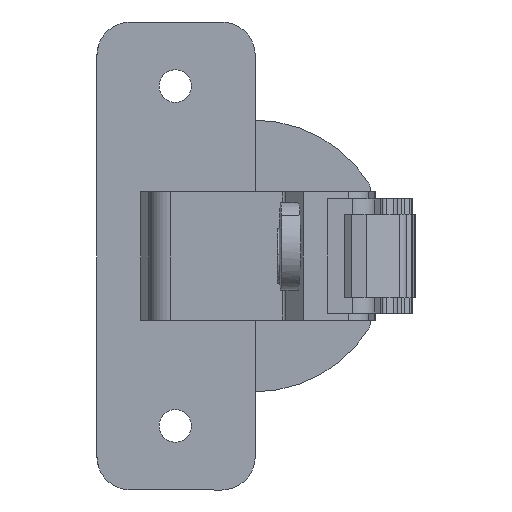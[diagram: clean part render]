
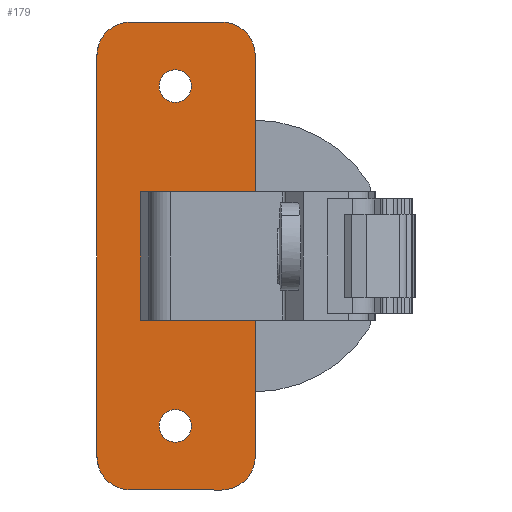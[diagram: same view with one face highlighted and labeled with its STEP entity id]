
A CAD part, left-side view. The second image highlights one B-rep face of the part: STEP entity #179.
In plain terms, the highlighted planar face has unit normal (-1, -0.001, 0).
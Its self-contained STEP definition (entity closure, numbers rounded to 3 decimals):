
#22 = CARTESIAN_POINT ( 'NONE',  ( 17.047, 27.42, 20.35 ) ) ;
#23 = DIRECTION ( 'NONE',  ( -1., -0.001, 0. ) ) ;
#36 = EDGE_CURVE ( 'NONE', #3483, #2443, #468, .T. ) ;
#117 = ORIENTED_EDGE ( 'NONE', *, *, #1464, .F. ) ;
#140 = EDGE_LOOP ( 'NONE', ( #2367, #3119 ) ) ;
#141 = AXIS2_PLACEMENT_3D ( 'NONE', #3350, #2025, #4020 ) ;
#161 = AXIS2_PLACEMENT_3D ( 'NONE', #1014, #3171, #3778 ) ;
#179 = ADVANCED_FACE ( 'NONE', ( #997, #2652, #1316, #961 ), #706, .T. ) ;
#184 = VERTEX_POINT ( 'NONE', #3236 ) ;
#198 = DIRECTION ( 'NONE',  ( -1., -0.001, 0. ) ) ;
#221 = LINE ( 'NONE', #4056, #2663 ) ;
#230 = VERTEX_POINT ( 'NONE', #4201 ) ;
#283 = AXIS2_PLACEMENT_3D ( 'NONE', #4169, #23, #2856 ) ;
#349 = DIRECTION ( 'NONE',  ( -1., -0.001, 0. ) ) ;
#406 = DIRECTION ( 'NONE',  ( -0.001, 1., 0. ) ) ;
#443 = DIRECTION ( 'NONE',  ( -0.001, 1., 0. ) ) ;
#468 = CIRCLE ( 'NONE', #2424, 2.15 ) ;
#496 = EDGE_CURVE ( 'NONE', #2433, #2495, #2225, .T. ) ;
#509 = EDGE_LOOP ( 'NONE', ( #117, #2126 ) ) ;
#581 = CARTESIAN_POINT ( 'NONE',  ( 17.056, 16.838, 26.536 ) ) ;
#643 = EDGE_CURVE ( 'NONE', #862, #1780, #1596, .T. ) ;
#699 = VECTOR ( 'NONE', #1857, 1000. ) ;
#706 = PLANE ( 'NONE',  #4187 ) ;
#719 = DIRECTION ( 'NONE',  ( 0.001, -1., 0. ) ) ;
#760 = LINE ( 'NONE', #1098, #905 ) ;
#789 = VERTEX_POINT ( 'NONE', #1442 ) ;
#834 = DIRECTION ( 'NONE',  ( 0., 0., -1. ) ) ;
#856 = ORIENTED_EDGE ( 'NONE', *, *, #3524, .T. ) ;
#862 = VERTEX_POINT ( 'NONE', #2803 ) ;
#905 = VECTOR ( 'NONE', #719, 1000. ) ;
#950 = EDGE_LOOP ( 'NONE', ( #3022, #1991, #1467, #2616, #1309, #1288, #1952, #856 ) ) ;
#961 = FACE_OUTER_BOUND ( 'NONE', #950, .T. ) ;
#997 = FACE_BOUND ( 'NONE', #3055, .T. ) ;
#1014 = CARTESIAN_POINT ( 'NONE',  ( 17.047, 27.42, -22.5 ) ) ;
#1098 = CARTESIAN_POINT ( 'NONE',  ( 17.052, 21.284, -30.982 ) ) ;
#1210 = EDGE_CURVE ( 'NONE', #1657, #2882, #3092, .T. ) ;
#1288 = ORIENTED_EDGE ( 'NONE', *, *, #4119, .T. ) ;
#1309 = ORIENTED_EDGE ( 'NONE', *, *, #1675, .T. ) ;
#1316 = FACE_BOUND ( 'NONE', #140, .T. ) ;
#1348 = CARTESIAN_POINT ( 'NONE',  ( 17.052, 21.284, 8.5 ) ) ;
#1351 = DIRECTION ( 'NONE',  ( 0., 0., 1. ) ) ;
#1413 = AXIS2_PLACEMENT_3D ( 'NONE', #1546, #2846, #2141 ) ;
#1430 = LINE ( 'NONE', #2364, #1984 ) ;
#1433 = VECTOR ( 'NONE', #406, 1000. ) ;
#1442 = CARTESIAN_POINT ( 'NONE',  ( 17.047, 27.42, -24.65 ) ) ;
#1464 = EDGE_CURVE ( 'NONE', #2443, #3483, #4199, .T. ) ;
#1467 = ORIENTED_EDGE ( 'NONE', *, *, #2087, .T. ) ;
#1468 = CARTESIAN_POINT ( 'NONE',  ( 17.056, 17.104, -13.5 ) ) ;
#1546 = CARTESIAN_POINT ( 'NONE',  ( 17.041, 33.356, -26.536 ) ) ;
#1596 = LINE ( 'NONE', #2887, #2908 ) ;
#1614 = DIRECTION ( 'NONE',  ( 0., 0., 1. ) ) ;
#1633 = CIRCLE ( 'NONE', #141, 2.15 ) ;
#1657 = VERTEX_POINT ( 'NONE', #2969 ) ;
#1675 = EDGE_CURVE ( 'NONE', #2340, #1796, #3664, .T. ) ;
#1705 = CARTESIAN_POINT ( 'NONE',  ( 17.056, 16.838, 26.536 ) ) ;
#1780 = VERTEX_POINT ( 'NONE', #3647 ) ;
#1796 = VERTEX_POINT ( 'NONE', #3250 ) ;
#1807 = CARTESIAN_POINT ( 'NONE',  ( 17.052, 21.284, -30.982 ) ) ;
#1857 = DIRECTION ( 'NONE',  ( 0.001, -1., 0. ) ) ;
#1880 = ORIENTED_EDGE ( 'NONE', *, *, #2540, .F. ) ;
#1881 = EDGE_CURVE ( 'NONE', #4153, #2477, #3801, .T. ) ;
#1940 = CARTESIAN_POINT ( 'NONE',  ( 17.052, 21.284, -8.5 ) ) ;
#1949 = CARTESIAN_POINT ( 'NONE',  ( 17.041, 33.356, -30.982 ) ) ;
#1952 = ORIENTED_EDGE ( 'NONE', *, *, #1881, .T. ) ;
#1984 = VECTOR ( 'NONE', #443, 1000. ) ;
#1991 = ORIENTED_EDGE ( 'NONE', *, *, #3831, .T. ) ;
#1996 = EDGE_CURVE ( 'NONE', #789, #184, #1633, .T. ) ;
#2018 = EDGE_CURVE ( 'NONE', #230, #2340, #3324, .T. ) ;
#2025 = DIRECTION ( 'NONE',  ( -1., -0.001, 0. ) ) ;
#2074 = VERTEX_POINT ( 'NONE', #1807 ) ;
#2087 = EDGE_CURVE ( 'NONE', #2074, #230, #4077, .T. ) ;
#2126 = ORIENTED_EDGE ( 'NONE', *, *, #36, .F. ) ;
#2141 = DIRECTION ( 'NONE',  ( 0., 0., 1. ) ) ;
#2225 = CIRCLE ( 'NONE', #1413, 4.446 ) ;
#2255 = CARTESIAN_POINT ( 'NONE',  ( 17.047, 27.42, 22.5 ) ) ;
#2340 = VERTEX_POINT ( 'NONE', #581 ) ;
#2364 = CARTESIAN_POINT ( 'NONE',  ( 17.041, 33.356, 30.982 ) ) ;
#2367 = ORIENTED_EDGE ( 'NONE', *, *, #1996, .F. ) ;
#2401 = DIRECTION ( 'NONE',  ( 0., 0., 1. ) ) ;
#2413 = ORIENTED_EDGE ( 'NONE', *, *, #1210, .T. ) ;
#2424 = AXIS2_PLACEMENT_3D ( 'NONE', #4165, #4105, #3781 ) ;
#2433 = VERTEX_POINT ( 'NONE', #2561 ) ;
#2443 = VERTEX_POINT ( 'NONE', #3585 ) ;
#2477 = VERTEX_POINT ( 'NONE', #2582 ) ;
#2495 = VERTEX_POINT ( 'NONE', #1949 ) ;
#2519 = CARTESIAN_POINT ( 'NONE',  ( 17.056, 17.104, -8.5 ) ) ;
#2540 = EDGE_CURVE ( 'NONE', #1657, #862, #2967, .T. ) ;
#2561 = CARTESIAN_POINT ( 'NONE',  ( 17.037, 37.802, -26.536 ) ) ;
#2582 = CARTESIAN_POINT ( 'NONE',  ( 17.037, 37.802, 26.536 ) ) ;
#2608 = DIRECTION ( 'NONE',  ( -1., -0.001, 0. ) ) ;
#2616 = ORIENTED_EDGE ( 'NONE', *, *, #2018, .T. ) ;
#2652 = FACE_BOUND ( 'NONE', #509, .T. ) ;
#2663 = VECTOR ( 'NONE', #834, 1000. ) ;
#2671 = CARTESIAN_POINT ( 'NONE',  ( 17.052, 21.284, 26.536 ) ) ;
#2803 = CARTESIAN_POINT ( 'NONE',  ( 17.043, 32.022, 8.5 ) ) ;
#2846 = DIRECTION ( 'NONE',  ( -1., -0.001, 0. ) ) ;
#2856 = DIRECTION ( 'NONE',  ( 0., 0., 1. ) ) ;
#2882 = VERTEX_POINT ( 'NONE', #2519 ) ;
#2887 = CARTESIAN_POINT ( 'NONE',  ( 17.043, 32.022, -26.536 ) ) ;
#2906 = DIRECTION ( 'NONE',  ( 0., 0., -1. ) ) ;
#2908 = VECTOR ( 'NONE', #2906, 1000. ) ;
#2967 = LINE ( 'NONE', #1348, #1433 ) ;
#2969 = CARTESIAN_POINT ( 'NONE',  ( 17.056, 17.104, 8.5 ) ) ;
#3001 = DIRECTION ( 'NONE',  ( 0., 0., 1. ) ) ;
#3009 = CIRCLE ( 'NONE', #161, 2.15 ) ;
#3022 = ORIENTED_EDGE ( 'NONE', *, *, #496, .T. ) ;
#3055 = EDGE_LOOP ( 'NONE', ( #2413, #3783, #3476, #1880 ) ) ;
#3061 = VECTOR ( 'NONE', #3001, 1000. ) ;
#3068 = DIRECTION ( 'NONE',  ( 0., 0., -1. ) ) ;
#3092 = LINE ( 'NONE', #1468, #3255 ) ;
#3106 = CARTESIAN_POINT ( 'NONE',  ( 17.052, 21.284, -26.536 ) ) ;
#3119 = ORIENTED_EDGE ( 'NONE', *, *, #3674, .F. ) ;
#3171 = DIRECTION ( 'NONE',  ( -1., -0.001, 0. ) ) ;
#3194 = AXIS2_PLACEMENT_3D ( 'NONE', #2671, #3921, #1351 ) ;
#3223 = EDGE_CURVE ( 'NONE', #1780, #2882, #3510, .T. ) ;
#3236 = CARTESIAN_POINT ( 'NONE',  ( 17.047, 27.42, -20.35 ) ) ;
#3250 = CARTESIAN_POINT ( 'NONE',  ( 17.052, 21.284, 30.982 ) ) ;
#3255 = VECTOR ( 'NONE', #3068, 1000. ) ;
#3324 = LINE ( 'NONE', #1705, #3061 ) ;
#3350 = CARTESIAN_POINT ( 'NONE',  ( 17.047, 27.42, -22.5 ) ) ;
#3469 = AXIS2_PLACEMENT_3D ( 'NONE', #3106, #198, #2401 ) ;
#3476 = ORIENTED_EDGE ( 'NONE', *, *, #643, .F. ) ;
#3483 = VERTEX_POINT ( 'NONE', #22 ) ;
#3510 = LINE ( 'NONE', #1940, #699 ) ;
#3524 = EDGE_CURVE ( 'NONE', #2477, #2433, #221, .T. ) ;
#3585 = CARTESIAN_POINT ( 'NONE',  ( 17.047, 27.42, 24.65 ) ) ;
#3591 = DIRECTION ( 'NONE',  ( 0., 0., 1. ) ) ;
#3620 = CARTESIAN_POINT ( 'NONE',  ( 17.041, 33.356, 30.982 ) ) ;
#3647 = CARTESIAN_POINT ( 'NONE',  ( 17.043, 32.022, -8.5 ) ) ;
#3664 = CIRCLE ( 'NONE', #3194, 4.446 ) ;
#3674 = EDGE_CURVE ( 'NONE', #184, #789, #3009, .T. ) ;
#3727 = AXIS2_PLACEMENT_3D ( 'NONE', #2255, #349, #3591 ) ;
#3778 = DIRECTION ( 'NONE',  ( 0., 0., 1. ) ) ;
#3781 = DIRECTION ( 'NONE',  ( 0., 0., 1. ) ) ;
#3783 = ORIENTED_EDGE ( 'NONE', *, *, #3223, .F. ) ;
#3801 = CIRCLE ( 'NONE', #283, 4.446 ) ;
#3831 = EDGE_CURVE ( 'NONE', #2495, #2074, #760, .T. ) ;
#3921 = DIRECTION ( 'NONE',  ( -1., -0.001, 0. ) ) ;
#3953 = CARTESIAN_POINT ( 'NONE',  ( 17.052, 21.284, -26.536 ) ) ;
#4020 = DIRECTION ( 'NONE',  ( 0., 0., 1. ) ) ;
#4056 = CARTESIAN_POINT ( 'NONE',  ( 17.037, 37.802, -26.536 ) ) ;
#4077 = CIRCLE ( 'NONE', #3469, 4.446 ) ;
#4105 = DIRECTION ( 'NONE',  ( -1., -0.001, 0. ) ) ;
#4119 = EDGE_CURVE ( 'NONE', #1796, #4153, #1430, .T. ) ;
#4153 = VERTEX_POINT ( 'NONE', #3620 ) ;
#4165 = CARTESIAN_POINT ( 'NONE',  ( 17.047, 27.42, 22.5 ) ) ;
#4169 = CARTESIAN_POINT ( 'NONE',  ( 17.041, 33.356, 26.536 ) ) ;
#4187 = AXIS2_PLACEMENT_3D ( 'NONE', #3953, #2608, #1614 ) ;
#4199 = CIRCLE ( 'NONE', #3727, 2.15 ) ;
#4201 = CARTESIAN_POINT ( 'NONE',  ( 17.056, 16.838, -26.536 ) ) ;
